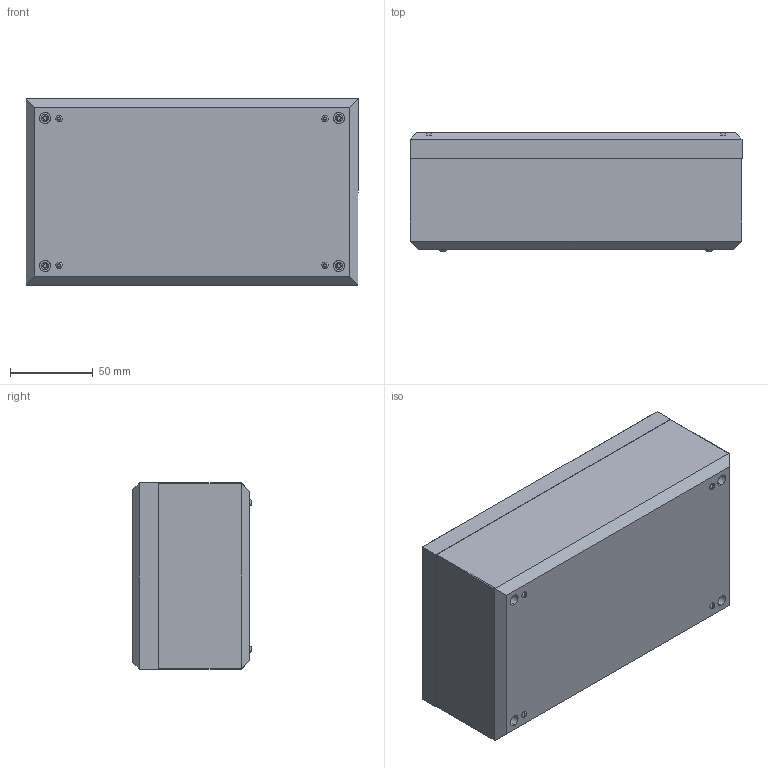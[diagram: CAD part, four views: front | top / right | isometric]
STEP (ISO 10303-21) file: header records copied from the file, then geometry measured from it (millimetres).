
FILE_DESCRIPTION (( 'STEP AP214' ), '1' );
FILE_NAME ('Conjunt PP63C.STEP', '2017-01-23T03:20:02', ( 'aaa' ), ( '' ), 'SwSTEP 2.0', 'SolidWorks 2013', '' );
FILE_SCHEMA (( 'AUTOMOTIVE_DESIGN' ));
Length unit declared in the file: millimetre
Products named in the file (7): Conjunt PP63C; Metrico 3x7,9 PP63C; Tapeta embellidor; Fijacion tornillo PP63C; Cargol 2,1x6,5 PP63C; Tapa PP63C; Cuerpo PP63C
Assembly tree (18 placements, depth 2):
  Conjunt PP63C
    Cuerpo PP63C
    Tapa PP63C
    Cargol 2,1x6,5 PP63C  x4
    Fijacion tornillo PP63C  x4
    Tapeta embellidor  x4
    Metrico 3x7,9 PP63C  x4
Bounding box: 200 x 71.5 x 112.2 mm (x, y, z)
Volume: 276410 mm3; surface area: 191573.4 mm2
Topology: 23 solids, 23 shells, 1317 faces, 2960 edges, 1756 vertices
Faces by surface type: cone 616, plane 421, cylinder 256, torus 24
Entity records: 17039 total; most frequent: DIRECTION 3066, CARTESIAN_POINT 2875, ORIENTED_EDGE 2712, EDGE_CURVE 1356, AXIS2_PLACEMENT_3D 1126, VERTEX_POINT 847, VECTOR 814, LINE 814
